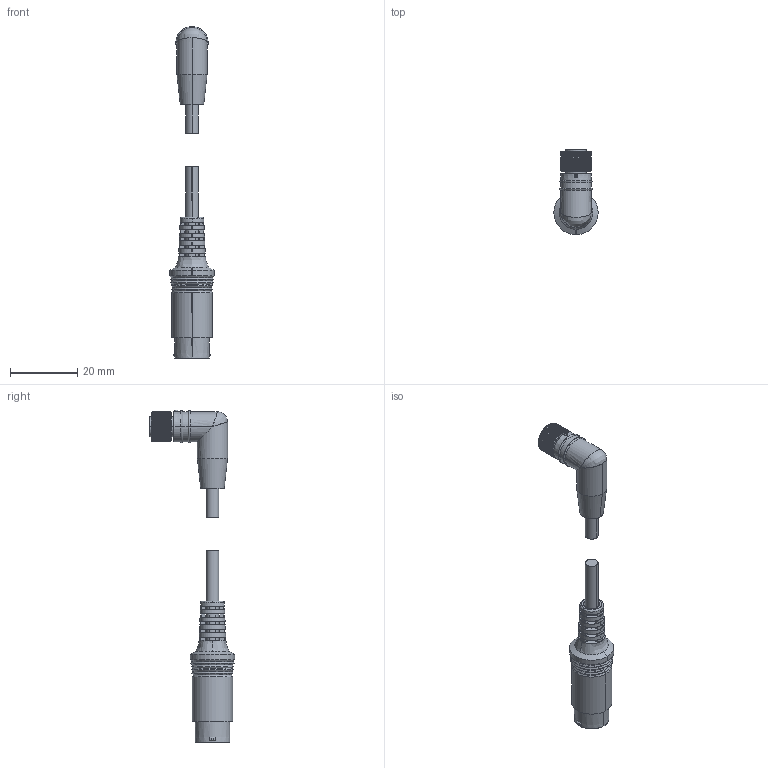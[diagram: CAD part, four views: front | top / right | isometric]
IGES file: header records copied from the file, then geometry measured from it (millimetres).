
Start section: SolidWorks IGES file using analytic representation for surfaces
Bounding box: 13.2 x 25.4 x 99 mm (x, y, z)
Surface area: 3700.9 mm2 (no closed solid volume)
Topology: 0 solids, 0 shells, 407 faces, 3507 edges, 3501 vertices
Faces by surface type: bspline 232, revolution 175
